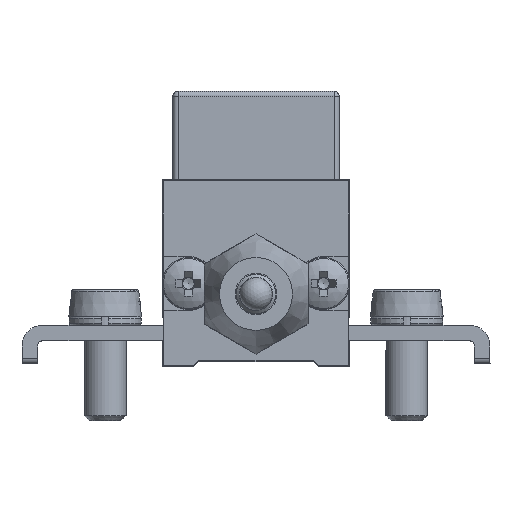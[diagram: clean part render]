
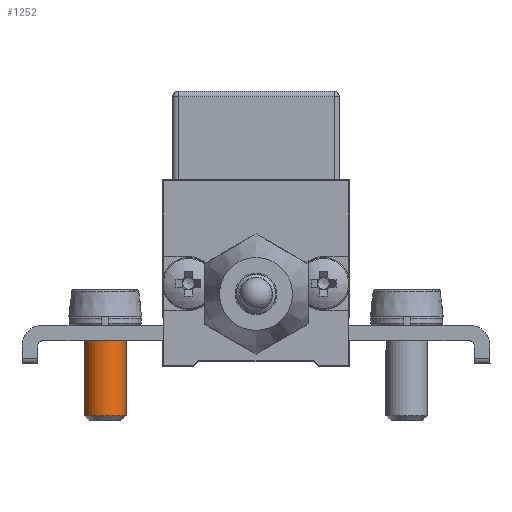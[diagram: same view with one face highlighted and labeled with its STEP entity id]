
A CAD part, front view. The second image highlights one B-rep face of the part: STEP entity #1252.
In plain terms, the highlighted cylindrical face has radius 2 mm (diameter 4 mm), a full revolution.
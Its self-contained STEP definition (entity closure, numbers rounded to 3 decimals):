
#1252 = ADVANCED_FACE( '', ( #2662, #2663 ), #2664, .T. );
#2662 = FACE_OUTER_BOUND( '', #5296, .T. );
#2663 = FACE_OUTER_BOUND( '', #5297, .T. );
#2664 = CYLINDRICAL_SURFACE( '', #5298, 2. );
#5296 = EDGE_LOOP( '', ( #8384 ) );
#5297 = EDGE_LOOP( '', ( #8385 ) );
#5298 = AXIS2_PLACEMENT_3D( '', #8386, #8387, #8388 );
#8384 = ORIENTED_EDGE( '', *, *, #9742, .T. );
#8385 = ORIENTED_EDGE( '', *, *, #9942, .T. );
#8386 = CARTESIAN_POINT( '', ( -14.5, 11., 32.8 ) );
#8387 = DIRECTION( '', ( 0., 0., -1. ) );
#8388 = DIRECTION( '', ( 1., 0., 0. ) );
#9742 = EDGE_CURVE( '', #12398, #12398, #12399, .F. );
#9942 = EDGE_CURVE( '', #12758, #12758, #12759, .T. );
#12398 = VERTEX_POINT( '', #17113 );
#12399 = CIRCLE( '', #17114, 2. );
#12758 = VERTEX_POINT( '', #17696 );
#12759 = CIRCLE( '', #17697, 2. );
#17113 = CARTESIAN_POINT( '', ( -16.5, 11., -4.7 ) );
#17114 = AXIS2_PLACEMENT_3D( '', #22959, #22960, #22961 );
#17696 = CARTESIAN_POINT( '', ( -12.5, 11., 3.8 ) );
#17697 = AXIS2_PLACEMENT_3D( '', #23271, #23272, #23273 );
#22959 = CARTESIAN_POINT( '', ( -14.5, 11., -4.7 ) );
#22960 = DIRECTION( '', ( 0., 0., -1. ) );
#22961 = DIRECTION( '', ( -1., 0., 0. ) );
#23271 = CARTESIAN_POINT( '', ( -14.5, 11., 3.8 ) );
#23272 = DIRECTION( '', ( 0., 0., -1. ) );
#23273 = DIRECTION( '', ( 1., 0., 0. ) );
